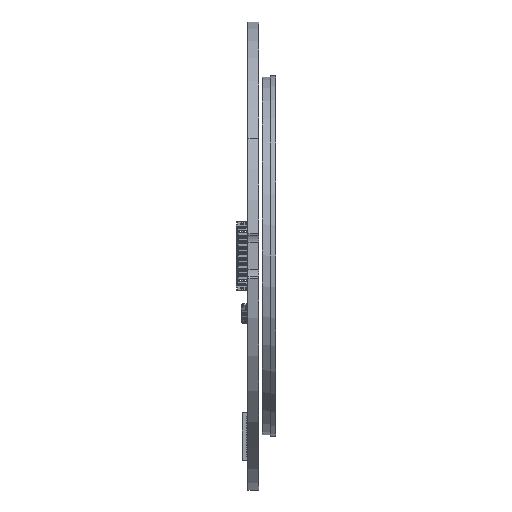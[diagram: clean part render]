
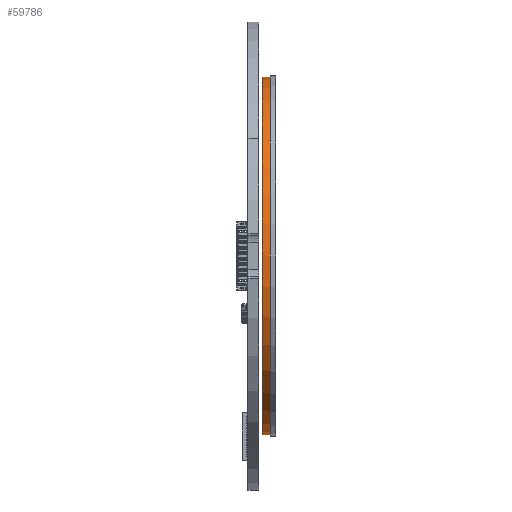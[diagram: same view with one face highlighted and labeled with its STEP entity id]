
A CAD part, left-side view. The second image highlights one B-rep face of the part: STEP entity #59786.
In plain terms, the highlighted cylindrical face has radius 26.25 mm (diameter 52.5 mm), a partial arc.
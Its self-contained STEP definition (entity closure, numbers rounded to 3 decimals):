
#335 = DIRECTION ( 'NONE',  ( 0., -1., 0. ) ) ;
#1991 = EDGE_CURVE ( 'NONE', #63702, #30242, #64486, .T. ) ;
#2203 = VERTEX_POINT ( 'NONE', #35950 ) ;
#5166 = LINE ( 'NONE', #58818, #52679 ) ;
#6212 = VECTOR ( 'NONE', #76379, 1000. ) ;
#9448 = EDGE_CURVE ( 'NONE', #24790, #63702, #5166, .T. ) ;
#10958 = AXIS2_PLACEMENT_3D ( 'NONE', #71677, #335, #84905 ) ;
#11699 = CARTESIAN_POINT ( 'NONE',  ( 0., 2., -26.25 ) ) ;
#12395 = LINE ( 'NONE', #32166, #6212 ) ;
#12707 = CARTESIAN_POINT ( 'NONE',  ( 0., 2.001, 0. ) ) ;
#12748 = DIRECTION ( 'NONE',  ( 0., 0., 1. ) ) ;
#14508 = VERTEX_POINT ( 'NONE', #32526 ) ;
#16834 = LINE ( 'NONE', #11699, #84087 ) ;
#21039 = EDGE_CURVE ( 'NONE', #64999, #2203, #16834, .T. ) ;
#21937 = AXIS2_PLACEMENT_3D ( 'NONE', #39406, #44522, #12748 ) ;
#24790 = VERTEX_POINT ( 'NONE', #35636 ) ;
#27712 = CARTESIAN_POINT ( 'NONE',  ( -0.25, 2., -26.249 ) ) ;
#30242 = VERTEX_POINT ( 'NONE', #63786 ) ;
#32166 = CARTESIAN_POINT ( 'NONE',  ( 0., 2., 26.25 ) ) ;
#32526 = CARTESIAN_POINT ( 'NONE',  ( 0., 0.8, 26.25 ) ) ;
#35636 = CARTESIAN_POINT ( 'NONE',  ( -0.25, 2.001, -26.249 ) ) ;
#35653 = ORIENTED_EDGE ( 'NONE', *, *, #48052, .F. ) ;
#35950 = CARTESIAN_POINT ( 'NONE',  ( 0., 0.8, -26.25 ) ) ;
#37960 = ORIENTED_EDGE ( 'NONE', *, *, #1991, .F. ) ;
#38921 = DIRECTION ( 'NONE',  ( 0., 1., 0. ) ) ;
#39406 = CARTESIAN_POINT ( 'NONE',  ( 0., 0.8, 0. ) ) ;
#39499 = CIRCLE ( 'NONE', #64157, 26.25 ) ;
#44388 = ORIENTED_EDGE ( 'NONE', *, *, #21039, .T. ) ;
#44522 = DIRECTION ( 'NONE',  ( 0., 1., 0. ) ) ;
#45061 = EDGE_CURVE ( 'NONE', #2203, #14508, #53513, .T. ) ;
#46296 = DIRECTION ( 'NONE',  ( 0., 0., 1. ) ) ;
#46747 = CARTESIAN_POINT ( 'NONE',  ( 0., 2.001, -26.25 ) ) ;
#48052 = EDGE_CURVE ( 'NONE', #30242, #14508, #12395, .T. ) ;
#49887 = DIRECTION ( 'NONE',  ( 0., -1., 0. ) ) ;
#52679 = VECTOR ( 'NONE', #72184, 1000. ) ;
#53513 = CIRCLE ( 'NONE', #21937, 26.25 ) ;
#57456 = ORIENTED_EDGE ( 'NONE', *, *, #58591, .F. ) ;
#58591 = EDGE_CURVE ( 'NONE', #64999, #24790, #39499, .T. ) ;
#58629 = DIRECTION ( 'NONE',  ( 0., 0., 1. ) ) ;
#58818 = CARTESIAN_POINT ( 'NONE',  ( -0.25, 2.001, -26.249 ) ) ;
#59786 = ADVANCED_FACE ( 'NONE', ( #71257 ), #78469, .T. ) ;
#63702 = VERTEX_POINT ( 'NONE', #27712 ) ;
#63786 = CARTESIAN_POINT ( 'NONE',  ( 0., 2., 26.25 ) ) ;
#64157 = AXIS2_PLACEMENT_3D ( 'NONE', #12707, #38921, #58629 ) ;
#64486 = CIRCLE ( 'NONE', #76987, 26.25 ) ;
#64950 = ORIENTED_EDGE ( 'NONE', *, *, #9448, .F. ) ;
#64999 = VERTEX_POINT ( 'NONE', #46747 ) ;
#69221 = ORIENTED_EDGE ( 'NONE', *, *, #45061, .T. ) ;
#71257 = FACE_OUTER_BOUND ( 'NONE', #81816, .T. ) ;
#71677 = CARTESIAN_POINT ( 'NONE',  ( 0., 2., 0. ) ) ;
#72184 = DIRECTION ( 'NONE',  ( 0., -1., 0. ) ) ;
#76379 = DIRECTION ( 'NONE',  ( 0., -1., 0. ) ) ;
#76987 = AXIS2_PLACEMENT_3D ( 'NONE', #79345, #78484, #46296 ) ;
#78469 = CYLINDRICAL_SURFACE ( 'NONE', #10958, 26.25 ) ;
#78484 = DIRECTION ( 'NONE',  ( 0., 1., 0. ) ) ;
#79345 = CARTESIAN_POINT ( 'NONE',  ( 0., 2., 0. ) ) ;
#81816 = EDGE_LOOP ( 'NONE', ( #35653, #37960, #64950, #57456, #44388, #69221 ) ) ;
#84087 = VECTOR ( 'NONE', #49887, 1000. ) ;
#84905 = DIRECTION ( 'NONE',  ( 0., 0., -1. ) ) ;
